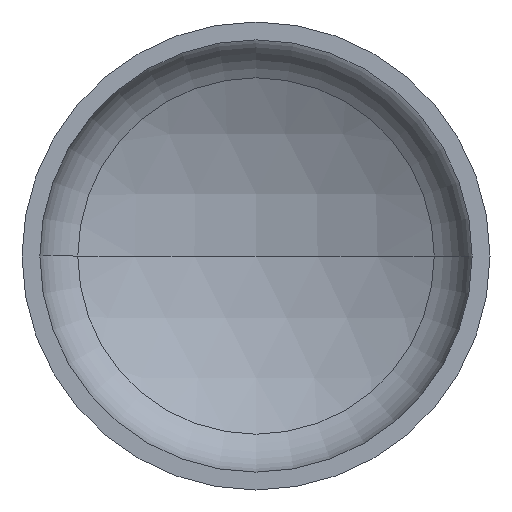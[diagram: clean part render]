
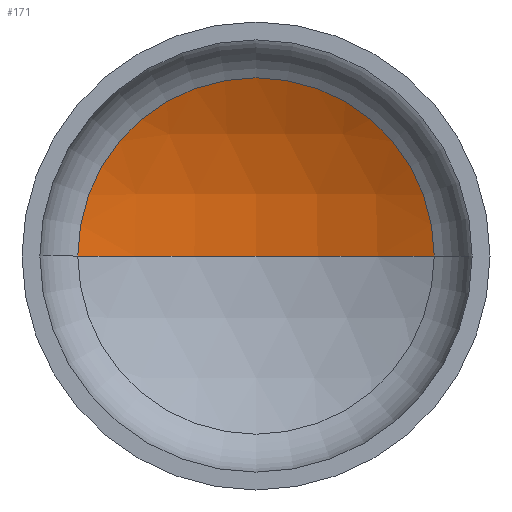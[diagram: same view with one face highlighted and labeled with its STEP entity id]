
A CAD part, front view. The second image highlights one B-rep face of the part: STEP entity #171.
In plain terms, the highlighted spherical face has radius 880 mm.
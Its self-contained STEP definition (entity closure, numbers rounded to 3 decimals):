
#4 = AXIS2_PLACEMENT_3D ( 'NONE', #105, #410, #281 ) ;
#6 = AXIS2_PLACEMENT_3D ( 'NONE', #297, #158, #320 ) ;
#9 = EDGE_LOOP ( 'NONE', ( #109, #139, #102 ) ) ;
#11 = AXIS2_PLACEMENT_3D ( 'NONE', #146, #375, #179 ) ;
#40 = CIRCLE ( 'NONE', #11, 880. ) ;
#44 = VERTEX_POINT ( 'NONE', #271 ) ;
#47 = AXIS2_PLACEMENT_3D ( 'NONE', #277, #292, #312 ) ;
#102 = ORIENTED_EDGE ( 'NONE', *, *, #391, .T. ) ;
#105 = CARTESIAN_POINT ( 'NONE',  ( 0., 279.501, 0. ) ) ;
#109 = ORIENTED_EDGE ( 'NONE', *, *, #374, .F. ) ;
#120 = VERTEX_POINT ( 'NONE', #221 ) ;
#139 = ORIENTED_EDGE ( 'NONE', *, *, #387, .T. ) ;
#142 = VERTEX_POINT ( 'NONE', #199 ) ;
#146 = CARTESIAN_POINT ( 'NONE',  ( 0., -494.384, 0. ) ) ;
#158 = DIRECTION ( 'NONE',  ( 0., 0., -1. ) ) ;
#169 = CIRCLE ( 'NONE', #4, 418.93 ) ;
#171 = ADVANCED_FACE ( 'NONE', ( #226 ), #288, .F. ) ;
#177 = CIRCLE ( 'NONE', #6, 880. ) ;
#179 = DIRECTION ( 'NONE',  ( 1., 0., 0. ) ) ;
#199 = CARTESIAN_POINT ( 'NONE',  ( 418.93, 279.501, 0. ) ) ;
#221 = CARTESIAN_POINT ( 'NONE',  ( 0., 385.616, 0. ) ) ;
#226 = FACE_OUTER_BOUND ( 'NONE', #9, .T. ) ;
#271 = CARTESIAN_POINT ( 'NONE',  ( -418.93, 279.501, 0. ) ) ;
#277 = CARTESIAN_POINT ( 'NONE',  ( 0., -494.384, 0. ) ) ;
#281 = DIRECTION ( 'NONE',  ( 1., 0., 0. ) ) ;
#288 = SPHERICAL_SURFACE ( 'NONE', #47, 880. ) ;
#292 = DIRECTION ( 'NONE',  ( 0., 0., -1. ) ) ;
#297 = CARTESIAN_POINT ( 'NONE',  ( 0., -494.384, 0. ) ) ;
#312 = DIRECTION ( 'NONE',  ( -1., 0., 0. ) ) ;
#320 = DIRECTION ( 'NONE',  ( -1., 0., 0. ) ) ;
#374 = EDGE_CURVE ( 'NONE', #120, #44, #40, .T. ) ;
#375 = DIRECTION ( 'NONE',  ( 0., 0., 1. ) ) ;
#387 = EDGE_CURVE ( 'NONE', #120, #142, #177, .T. ) ;
#391 = EDGE_CURVE ( 'NONE', #142, #44, #169, .T. ) ;
#410 = DIRECTION ( 'NONE',  ( 0., -1., 0. ) ) ;
